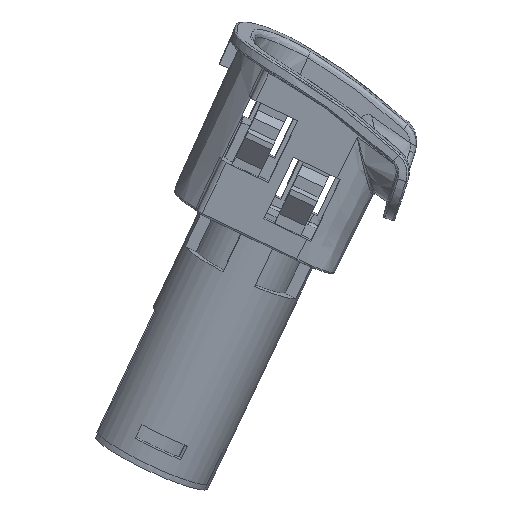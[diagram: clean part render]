
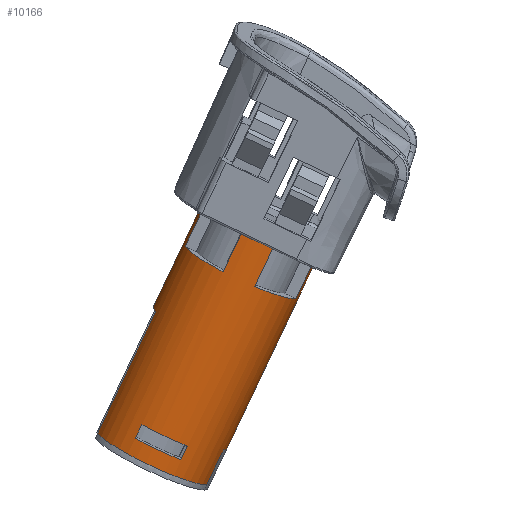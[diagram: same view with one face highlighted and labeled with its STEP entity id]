
A CAD part, left-side view. The second image highlights one B-rep face of the part: STEP entity #10166.
In plain terms, the highlighted cylindrical face has radius 11 mm (diameter 22 mm), a partial arc.
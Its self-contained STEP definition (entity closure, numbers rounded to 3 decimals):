
#10002=AXIS2_PLACEMENT_3D('Cylinder Axis2P3D',#9999,#10000,#10001) ;
#10015=AXIS2_PLACEMENT_3D('Circle Axis2P3D',#10013,#10014,$) ;
#10029=AXIS2_PLACEMENT_3D('Circle Axis2P3D',#10027,#10028,$) ;
#10034=AXIS2_PLACEMENT_3D('Circle Axis2P3D',#10032,#10033,$) ;
#10041=AXIS2_PLACEMENT_3D('Circle Axis2P3D',#10039,#10040,$) ;
#10055=AXIS2_PLACEMENT_3D('Circle Axis2P3D',#10053,#10054,$) ;
#10069=AXIS2_PLACEMENT_3D('Circle Axis2P3D',#10067,#10068,$) ;
#10081=AXIS2_PLACEMENT_3D('Circle Axis2P3D',#10079,#10080,$) ;
#10095=AXIS2_PLACEMENT_3D('Circle Axis2P3D',#10093,#10094,$) ;
#10109=AXIS2_PLACEMENT_3D('Circle Axis2P3D',#10107,#10108,$) ;
#10143=AXIS2_PLACEMENT_3D('Circle Axis2P3D',#10141,#10142,$) ;
#10157=AXIS2_PLACEMENT_3D('Circle Axis2P3D',#10155,#10156,$) ;
#9931=CARTESIAN_POINT('Vertex',(-368.624,-969.469,462.937)) ;
#9934=CARTESIAN_POINT('Line Origine',(-366.07,-962.153,447.525)) ;
#9938=CARTESIAN_POINT('Vertex',(-365.292,-959.927,442.835)) ;
#9966=CARTESIAN_POINT('Vertex',(-366.261,-940.953,454.144)) ;
#9969=CARTESIAN_POINT('Line Origine',(-366.712,-942.246,456.869)) ;
#9973=CARTESIAN_POINT('Vertex',(-369.267,-949.563,472.28)) ;
#9999=CARTESIAN_POINT('Axis2P3D Location',(-366.391,-952.2,452.197)) ;
#10004=CARTESIAN_POINT('Line Origine',(-376.94,-949.096,451.922)) ;
#10008=CARTESIAN_POINT('Vertex',(-379.495,-956.412,467.334)) ;
#10010=CARTESIAN_POINT('Vertex',(-378.31,-953.019,460.186)) ;
#10013=CARTESIAN_POINT('Axis2P3D Location',(-367.761,-956.123,460.461)) ;
#10017=CARTESIAN_POINT('Vertex',(-371.035,-946.436,464.517)) ;
#10020=CARTESIAN_POINT('Line Origine',(-369.666,-942.513,456.253)) ;
#10024=CARTESIAN_POINT('Vertex',(-372.22,-949.829,471.664)) ;
#10027=CARTESIAN_POINT('Axis2P3D Location',(-368.945,-959.516,467.609)) ;
#10032=CARTESIAN_POINT('Axis2P3D Location',(-365.939,-950.906,449.472)) ;
#10036=CARTESIAN_POINT('Vertex',(-367.494,-940.971,453.931)) ;
#10039=CARTESIAN_POINT('Axis2P3D Location',(-365.939,-950.906,449.472)) ;
#10043=CARTESIAN_POINT('Vertex',(-369.704,-941.341,453.389)) ;
#10046=CARTESIAN_POINT('Line Origine',(-370.155,-942.635,456.114)) ;
#10050=CARTESIAN_POINT('Vertex',(-366.194,-931.29,432.215)) ;
#10053=CARTESIAN_POINT('Axis2P3D Location',(-362.43,-940.854,428.298)) ;
#10057=CARTESIAN_POINT('Vertex',(-365.585,-950.162,423.357)) ;
#10060=CARTESIAN_POINT('Line Origine',(-369.546,-961.507,447.256)) ;
#10064=CARTESIAN_POINT('Vertex',(-366.585,-953.025,429.387)) ;
#10067=CARTESIAN_POINT('Axis2P3D Location',(-363.429,-943.717,434.329)) ;
#10071=CARTESIAN_POINT('Vertex',(-363.108,-953.671,429.657)) ;
#10074=CARTESIAN_POINT('Line Origine',(-366.07,-962.153,447.525)) ;
#10079=CARTESIAN_POINT('Axis2P3D Location',(-368.945,-959.516,467.609)) ;
#10083=CARTESIAN_POINT('Vertex',(-371.602,-968.982,462.675)) ;
#10086=CARTESIAN_POINT('Line Origine',(-369.048,-961.666,447.263)) ;
#10090=CARTESIAN_POINT('Vertex',(-370.417,-965.589,455.527)) ;
#10093=CARTESIAN_POINT('Axis2P3D Location',(-367.761,-956.123,460.461)) ;
#10097=CARTESIAN_POINT('Vertex',(-378.135,-958.448,457.638)) ;
#10100=CARTESIAN_POINT('Line Origine',(-376.765,-954.525,449.374)) ;
#10104=CARTESIAN_POINT('Vertex',(-379.319,-961.841,464.785)) ;
#10107=CARTESIAN_POINT('Axis2P3D Location',(-368.945,-959.516,467.609)) ;
#10132=CARTESIAN_POINT('Line Origine',(-376.252,-955.764,448.871)) ;
#10136=CARTESIAN_POINT('Vertex',(-372.742,-945.712,427.697)) ;
#10138=CARTESIAN_POINT('Vertex',(-373.134,-946.836,430.064)) ;
#10141=CARTESIAN_POINT('Axis2P3D Location',(-362.881,-942.148,431.023)) ;
#10145=CARTESIAN_POINT('Vertex',(-372.996,-937.84,431.392)) ;
#10148=CARTESIAN_POINT('Line Origine',(-376.506,-947.892,452.566)) ;
#10152=CARTESIAN_POINT('Vertex',(-373.389,-938.964,433.759)) ;
#10155=CARTESIAN_POINT('Axis2P3D Location',(-363.274,-943.272,433.391)) ;
#9935=DIRECTION('Vector Direction',(0.148,0.424,-0.893)) ;
#9970=DIRECTION('Vector Direction',(0.148,0.424,-0.893)) ;
#10000=DIRECTION('Axis2P3D Direction',(0.148,0.424,-0.893)) ;
#10001=DIRECTION('Axis2P3D XDirection',(0.029,-0.905,-0.425)) ;
#10005=DIRECTION('Vector Direction',(0.148,0.424,-0.893)) ;
#10014=DIRECTION('Axis2P3D Direction',(0.148,0.424,-0.893)) ;
#10021=DIRECTION('Vector Direction',(0.148,0.424,-0.893)) ;
#10028=DIRECTION('Axis2P3D Direction',(0.148,0.424,-0.893)) ;
#10033=DIRECTION('Axis2P3D Direction',(0.148,0.424,-0.893)) ;
#10040=DIRECTION('Axis2P3D Direction',(0.148,0.424,-0.893)) ;
#10047=DIRECTION('Vector Direction',(0.148,0.424,-0.893)) ;
#10054=DIRECTION('Axis2P3D Direction',(0.148,0.424,-0.893)) ;
#10061=DIRECTION('Vector Direction',(0.148,0.424,-0.893)) ;
#10068=DIRECTION('Axis2P3D Direction',(0.148,0.424,-0.893)) ;
#10075=DIRECTION('Vector Direction',(0.148,0.424,-0.893)) ;
#10080=DIRECTION('Axis2P3D Direction',(0.148,0.424,-0.893)) ;
#10087=DIRECTION('Vector Direction',(0.148,0.424,-0.893)) ;
#10094=DIRECTION('Axis2P3D Direction',(0.148,0.424,-0.893)) ;
#10101=DIRECTION('Vector Direction',(0.148,0.424,-0.893)) ;
#10108=DIRECTION('Axis2P3D Direction',(0.148,0.424,-0.893)) ;
#10133=DIRECTION('Vector Direction',(0.148,0.424,-0.893)) ;
#10142=DIRECTION('Axis2P3D Direction',(0.148,0.424,-0.893)) ;
#10149=DIRECTION('Vector Direction',(0.148,0.424,-0.893)) ;
#10156=DIRECTION('Axis2P3D Direction',(0.148,0.424,-0.893)) ;
#9936=VECTOR('Line Direction',#9935,1.) ;
#9971=VECTOR('Line Direction',#9970,1.) ;
#10006=VECTOR('Line Direction',#10005,1.) ;
#10022=VECTOR('Line Direction',#10021,1.) ;
#10048=VECTOR('Line Direction',#10047,1.) ;
#10062=VECTOR('Line Direction',#10061,1.) ;
#10076=VECTOR('Line Direction',#10075,1.) ;
#10088=VECTOR('Line Direction',#10087,1.) ;
#10102=VECTOR('Line Direction',#10101,1.) ;
#10134=VECTOR('Line Direction',#10133,1.) ;
#10150=VECTOR('Line Direction',#10149,1.) ;
#10113=ORIENTED_EDGE('',*,*,#10012,.T.) ;
#10114=ORIENTED_EDGE('',*,*,#10019,.F.) ;
#10115=ORIENTED_EDGE('',*,*,#10026,.F.) ;
#10116=ORIENTED_EDGE('',*,*,#10031,.T.) ;
#10117=ORIENTED_EDGE('',*,*,#9975,.T.) ;
#10118=ORIENTED_EDGE('',*,*,#10038,.F.) ;
#10119=ORIENTED_EDGE('',*,*,#10045,.T.) ;
#10120=ORIENTED_EDGE('',*,*,#10052,.F.) ;
#10121=ORIENTED_EDGE('',*,*,#10059,.T.) ;
#10122=ORIENTED_EDGE('',*,*,#10066,.F.) ;
#10123=ORIENTED_EDGE('',*,*,#10073,.F.) ;
#10124=ORIENTED_EDGE('',*,*,#10078,.F.) ;
#10125=ORIENTED_EDGE('',*,*,#9940,.F.) ;
#10126=ORIENTED_EDGE('',*,*,#10085,.T.) ;
#10127=ORIENTED_EDGE('',*,*,#10092,.F.) ;
#10128=ORIENTED_EDGE('',*,*,#10099,.F.) ;
#10129=ORIENTED_EDGE('',*,*,#10106,.F.) ;
#10130=ORIENTED_EDGE('',*,*,#10111,.T.) ;
#10161=ORIENTED_EDGE('',*,*,#10140,.F.) ;
#10162=ORIENTED_EDGE('',*,*,#10147,.T.) ;
#10163=ORIENTED_EDGE('',*,*,#10154,.F.) ;
#10164=ORIENTED_EDGE('',*,*,#10159,.F.) ;
#10165=FACE_BOUND('',#10160,.T.) ;
#10166=ADVANCED_FACE('\X2\672C4F53\X0\',(#10131,#10165),#10003,.T.) ;
#10016=CIRCLE('generated circle',#10015,11.) ;
#10030=CIRCLE('generated circle',#10029,11.) ;
#10035=CIRCLE('generated circle',#10034,11.) ;
#10042=CIRCLE('generated circle',#10041,11.) ;
#10056=CIRCLE('generated circle',#10055,11.) ;
#10070=CIRCLE('generated circle',#10069,11.) ;
#10082=CIRCLE('generated circle',#10081,11.) ;
#10096=CIRCLE('generated circle',#10095,11.) ;
#10110=CIRCLE('generated circle',#10109,11.) ;
#10144=CIRCLE('generated circle',#10143,11.) ;
#10158=CIRCLE('generated circle',#10157,11.) ;
#10003=CYLINDRICAL_SURFACE('generated cylinder',#10002,11.) ;
#9940=EDGE_CURVE('',#9932,#9939,#9937,.T.) ;
#9975=EDGE_CURVE('',#9974,#9967,#9972,.T.) ;
#10012=EDGE_CURVE('',#10009,#10011,#10007,.T.) ;
#10019=EDGE_CURVE('',#10018,#10011,#10016,.F.) ;
#10026=EDGE_CURVE('',#10025,#10018,#10023,.T.) ;
#10031=EDGE_CURVE('',#10025,#9974,#10030,.T.) ;
#10038=EDGE_CURVE('',#10037,#9967,#10035,.T.) ;
#10045=EDGE_CURVE('',#10037,#10044,#10042,.F.) ;
#10052=EDGE_CURVE('',#10051,#10044,#10049,.F.) ;
#10059=EDGE_CURVE('',#10051,#10058,#10056,.F.) ;
#10066=EDGE_CURVE('',#10065,#10058,#10063,.T.) ;
#10073=EDGE_CURVE('',#10072,#10065,#10070,.T.) ;
#10078=EDGE_CURVE('',#9939,#10072,#10077,.T.) ;
#10085=EDGE_CURVE('',#9932,#10084,#10082,.T.) ;
#10092=EDGE_CURVE('',#10091,#10084,#10089,.F.) ;
#10099=EDGE_CURVE('',#10098,#10091,#10096,.F.) ;
#10106=EDGE_CURVE('',#10105,#10098,#10103,.T.) ;
#10111=EDGE_CURVE('',#10105,#10009,#10110,.T.) ;
#10140=EDGE_CURVE('',#10137,#10139,#10135,.F.) ;
#10147=EDGE_CURVE('',#10137,#10146,#10144,.T.) ;
#10154=EDGE_CURVE('',#10153,#10146,#10151,.T.) ;
#10159=EDGE_CURVE('',#10139,#10153,#10158,.T.) ;
#10112=EDGE_LOOP('',(#10113,#10114,#10115,#10116,#10117,#10118,#10119,#10120,#10121,#10122,#10123,#10124,#10125,#10126,#10127,#10128,#10129,#10130)) ;
#10160=EDGE_LOOP('',(#10161,#10162,#10163,#10164)) ;
#10131=FACE_OUTER_BOUND('',#10112,.T.) ;
#9937=LINE('Line',#9934,#9936) ;
#9972=LINE('Line',#9969,#9971) ;
#10007=LINE('Line',#10004,#10006) ;
#10023=LINE('Line',#10020,#10022) ;
#10049=LINE('Line',#10046,#10048) ;
#10063=LINE('Line',#10060,#10062) ;
#10077=LINE('Line',#10074,#10076) ;
#10089=LINE('Line',#10086,#10088) ;
#10103=LINE('Line',#10100,#10102) ;
#10135=LINE('Line',#10132,#10134) ;
#10151=LINE('Line',#10148,#10150) ;
#9932=VERTEX_POINT('',#9931) ;
#9939=VERTEX_POINT('',#9938) ;
#9967=VERTEX_POINT('',#9966) ;
#9974=VERTEX_POINT('',#9973) ;
#10009=VERTEX_POINT('',#10008) ;
#10011=VERTEX_POINT('',#10010) ;
#10018=VERTEX_POINT('',#10017) ;
#10025=VERTEX_POINT('',#10024) ;
#10037=VERTEX_POINT('',#10036) ;
#10044=VERTEX_POINT('',#10043) ;
#10051=VERTEX_POINT('',#10050) ;
#10058=VERTEX_POINT('',#10057) ;
#10065=VERTEX_POINT('',#10064) ;
#10072=VERTEX_POINT('',#10071) ;
#10084=VERTEX_POINT('',#10083) ;
#10091=VERTEX_POINT('',#10090) ;
#10098=VERTEX_POINT('',#10097) ;
#10105=VERTEX_POINT('',#10104) ;
#10137=VERTEX_POINT('',#10136) ;
#10139=VERTEX_POINT('',#10138) ;
#10146=VERTEX_POINT('',#10145) ;
#10153=VERTEX_POINT('',#10152) ;
